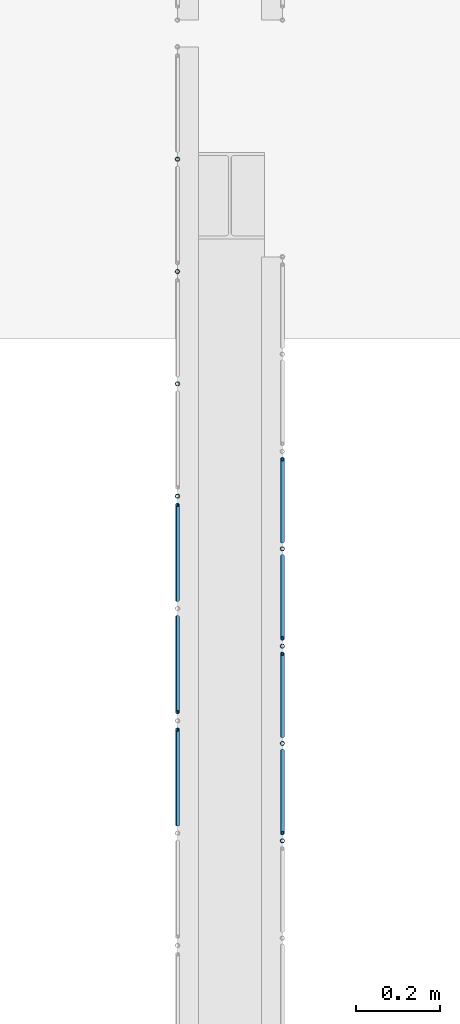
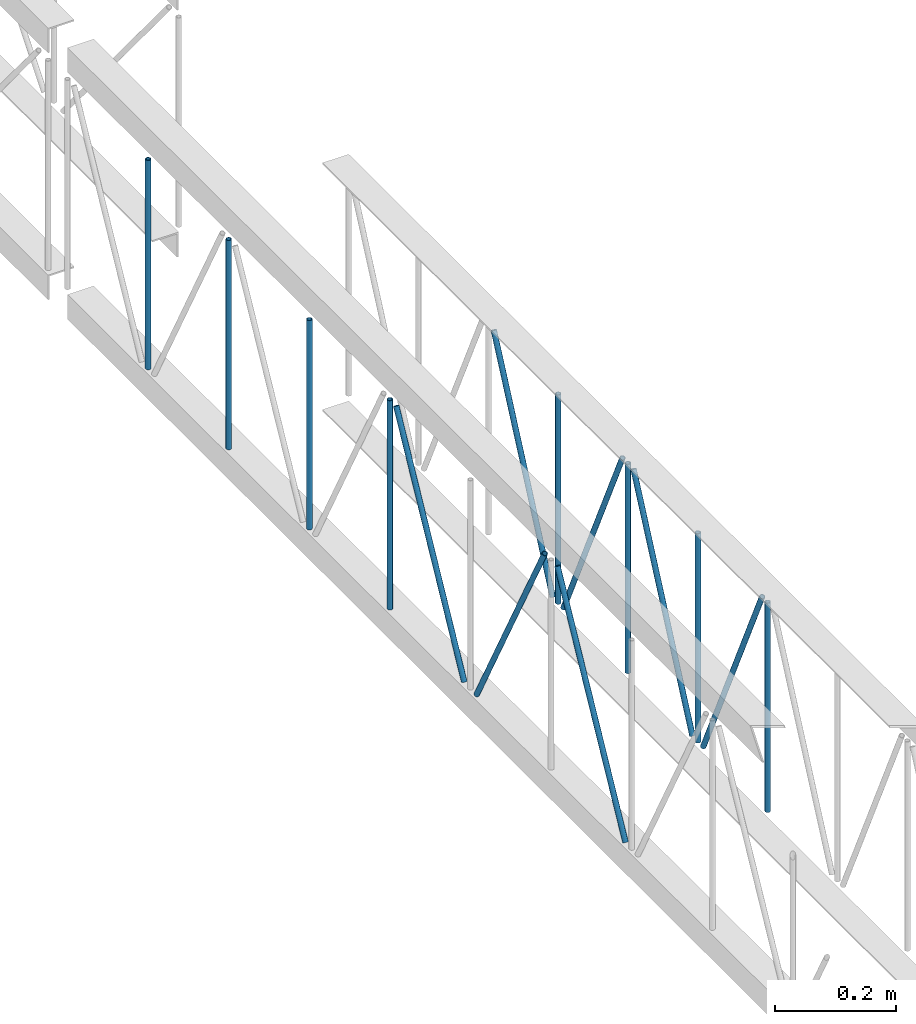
# One storey, part 86 of 153: 15 members, 2 elements without a shape of their own.
"""IFC4 building model written with IfcOpenShell, lengths in metres."""

from ifc_helpers import new_model, entity, si_unit, converted_unit, derived_unit, direction, frame, origin, place, context, subcontext, project, spatial, arc, indexed_curve, outline, extrude, source, transform, mapped, material, type_object, type_shapes, element, aggregate, save


model = new_model("IFC4")

# Units and contexts
model_context = context("Model", 3, precision=1e-05, world=origin(), true_north=direction((6.123031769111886e-17, 1.0)))
body_context = subcontext(model_context, "Body", "Model", "MODEL_VIEW")
ifc_project = project(units=[si_unit("LENGTHUNIT", "METRE"), si_unit("AREAUNIT", "SQUARE_METRE"), si_unit("VOLUMEUNIT", "CUBIC_METRE"), converted_unit("PLANEANGLEUNIT", "DEGREE", entity("IfcRatioMeasure", 0.017453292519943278), si_unit("PLANEANGLEUNIT", "RADIAN"), dimensions=[0, 0, 0, 0, 0, 0, 0]), si_unit("MASSUNIT", "GRAM", prefix="KILO"), derived_unit("MASSDENSITYUNIT", [(si_unit("MASSUNIT", "GRAM", prefix="KILO"), 1), (si_unit("LENGTHUNIT", "METRE"), -3)]), derived_unit("MOMENTOFINERTIAUNIT", [(si_unit("LENGTHUNIT", "METRE"), 4)]), si_unit("TIMEUNIT", "SECOND"), si_unit("FREQUENCYUNIT", "HERTZ"), si_unit("THERMODYNAMICTEMPERATUREUNIT", "DEGREE_CELSIUS"), derived_unit("THERMALTRANSMITTANCEUNIT", [(si_unit("MASSUNIT", "GRAM", prefix="KILO"), 1), (si_unit("THERMODYNAMICTEMPERATUREUNIT", "KELVIN"), -1), (si_unit("TIMEUNIT", "SECOND"), -3)]), derived_unit("VOLUMETRICFLOWRATEUNIT", [(si_unit("LENGTHUNIT", "METRE"), 3), (si_unit("TIMEUNIT", "SECOND"), -1)]), derived_unit("MASSFLOWRATEUNIT", [(si_unit("MASSUNIT", "GRAM", prefix="KILO"), 1), (si_unit("TIMEUNIT", "SECOND"), -1)]), derived_unit("ROTATIONALFREQUENCYUNIT", [(si_unit("TIMEUNIT", "SECOND"), -1)]), si_unit("ELECTRICCURRENTUNIT", "AMPERE"), si_unit("ELECTRICVOLTAGEUNIT", "VOLT"), si_unit("POWERUNIT", "WATT"), si_unit("FORCEUNIT", "NEWTON", prefix="KILO"), si_unit("ILLUMINANCEUNIT", "LUX"), si_unit("LUMINOUSFLUXUNIT", "LUMEN"), si_unit("LUMINOUSINTENSITYUNIT", "CANDELA"), derived_unit("USERDEFINED", [(si_unit("MASSUNIT", "GRAM", prefix="KILO"), -1), (si_unit("LENGTHUNIT", "METRE"), -2), (si_unit("TIMEUNIT", "SECOND"), 3), (si_unit("LUMINOUSFLUXUNIT", "LUMEN"), 1)]), derived_unit("SOUNDPOWERUNIT", [(si_unit("MASSUNIT", "GRAM", prefix="KILO"), 1), (si_unit("LENGTHUNIT", "METRE"), 2), (si_unit("TIMEUNIT", "SECOND"), -3)]), derived_unit("SOUNDPRESSUREUNIT", [(si_unit("MASSUNIT", "GRAM", prefix="KILO"), 1), (si_unit("LENGTHUNIT", "METRE"), -1), (si_unit("TIMEUNIT", "SECOND"), -2)]), derived_unit("LINEARVELOCITYUNIT", [(si_unit("LENGTHUNIT", "METRE"), 1), (si_unit("TIMEUNIT", "SECOND"), -1)]), si_unit("PRESSUREUNIT", "PASCAL"), derived_unit("USERDEFINED", [(si_unit("LENGTHUNIT", "METRE"), -2), (si_unit("MASSUNIT", "GRAM", prefix="KILO"), 1), (si_unit("TIMEUNIT", "SECOND"), -2)]), derived_unit("LINEARFORCEUNIT", [(si_unit("MASSUNIT", "GRAM", prefix="KILO"), 1), (si_unit("LENGTHUNIT", "METRE"), 1), (si_unit("TIMEUNIT", "SECOND"), -2), (si_unit("LENGTHUNIT", "METRE"), -1)]), derived_unit("PLANARFORCEUNIT", [(si_unit("MASSUNIT", "GRAM", prefix="KILO"), 1), (si_unit("LENGTHUNIT", "METRE"), 1), (si_unit("TIMEUNIT", "SECOND"), -2), (si_unit("LENGTHUNIT", "METRE"), -2)])], contexts=[model_context])

# Site, building, storey
site_placement = place(None, origin())
site = spatial("IfcSite", under=ifc_project, at=site_placement, Name="Superficie", CompositionType="ELEMENT")
building_placement = place(site_placement, origin())
building = spatial("IfcBuilding", under=site, at=building_placement, CompositionType="ELEMENT")
storey_placement = place(building_placement, frame((0.0, 0.0, 3.5999999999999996)))
storey = spatial("IfcBuildingStorey", under=building, at=storey_placement, Name="Nivel 1", CompositionType="ELEMENT", Elevation=3.5999999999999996)

# Assembly, members
assembly_1_placement = place(storey_placement, origin())
assembly_1 = element("IfcElementAssembly", 1, at=assembly_1_placement, inside=storey, Name="Viga de celosia 13:Viga de celosia 13", ObjectType="Viga de celosia 13:Viga de celosia 13", AssemblyPlace="NOTDEFINED", PredefinedType="TRUSS")
ifc_material = material(Name="Metal - Calibre delgado", Category="Metal")
member_type_1 = type_object("IfcMemberType", Name="HSS-Tubo estructural redondo:HSS 0.01", PredefinedType="BRACE", material=ifc_material)
shared_shape_1 = source(origin(), body_context, "Body", "SweptSolid", [
    extrude(outline(indexed_curve([(-0.005000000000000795, 7.502054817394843e-18), (-9.800269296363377e-18, -0.005000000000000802), (0.005000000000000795, -7.502054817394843e-18), (8.07772287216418e-18, 0.005000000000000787)], segments=[arc(1, 2, 3), arc(3, 4, 1)], self_intersect=False), holes=[indexed_curve([(0.003999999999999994, 7.222511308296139e-17), (6.910645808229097e-17, -0.004000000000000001), (-0.003999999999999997, -1.8650054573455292e-17), (-2.9156497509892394e-17, 0.003999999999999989)], segments=[arc(1, 2, 3), arc(3, 4, 1)], self_intersect=False)]), frame((-0.21200000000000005, 0.0, 0.0), z_axis=(1.0, 0.0, 0.0), x_axis=(0.0, 1.0, 0.0)), (0.0, 0.0, 1.0), 0.4240000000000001),
])
type_shapes(member_type_1, [shared_shape_1])
member_1_placement = place(assembly_1_placement, frame((15.836799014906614, -10.268502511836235, 0.25), z_axis=(0.0, 1.0, 0.0), x_axis=(0.0, 0.0, 1.0)))
member_1 = element("IfcMember", 2, at=member_1_placement, type_object=member_type_1, material=ifc_material, Name="HSS-Tubo estructural redondo:HSS 0.01", ObjectType="HSS-Tubo estructural redondo:HSS 0.01", PredefinedType="BRACE", context=body_context, shape_type="MappedRepresentation", body=[
    mapped(shared_shape_1, transform((0.0, 0.0, 0.0), scale=1.0)),
])
member_2_placement = place(assembly_1_placement, frame((15.836799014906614, -10.001002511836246, 0.25), z_axis=(0.0, 1.0, 0.0), x_axis=(0.0, 0.0, 1.0)))
member_2 = element("IfcMember", 3, at=member_2_placement, type_object=member_type_1, material=ifc_material, Name="HSS-Tubo estructural redondo:HSS 0.01", ObjectType="HSS-Tubo estructural redondo:HSS 0.01", PredefinedType="BRACE", context=body_context, shape_type="MappedRepresentation", body=[
    mapped(shared_shape_1, transform((0.0, 0.0, 0.0), scale=1.0)),
])
member_3_placement = place(assembly_1_placement, frame((15.836799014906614, -9.733502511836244, 0.25), z_axis=(0.0, 1.0, 0.0), x_axis=(0.0, 0.0, 1.0)))
member_3 = element("IfcMember", 4, at=member_3_placement, type_object=member_type_1, material=ifc_material, Name="HSS-Tubo estructural redondo:HSS 0.01", ObjectType="HSS-Tubo estructural redondo:HSS 0.01", PredefinedType="BRACE", context=body_context, shape_type="MappedRepresentation", body=[
    mapped(shared_shape_1, transform((0.0, 0.0, 0.0), scale=1.0)),
])
member_4_placement = place(assembly_1_placement, frame((15.836799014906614, -9.466002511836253, 0.25), z_axis=(0.0, 1.0, 0.0), x_axis=(0.0, 0.0, 1.0)))
member_4 = element("IfcMember", 5, at=member_4_placement, type_object=member_type_1, material=ifc_material, Name="HSS-Tubo estructural redondo:HSS 0.01", ObjectType="HSS-Tubo estructural redondo:HSS 0.01", PredefinedType="BRACE", context=body_context, shape_type="MappedRepresentation", body=[
    mapped(shared_shape_1, transform((0.0, 0.0, 0.0), scale=1.0)),
])

assembly_2_placement = place(storey_placement, origin())
assembly_2 = element("IfcElementAssembly", 6, at=assembly_2_placement, inside=storey, Name="Viga de celosia 13:Viga de celosia 13", ObjectType="Viga de celosia 13:Viga de celosia 13", AssemblyPlace="NOTDEFINED", PredefinedType="TRUSS")
member_type_2 = type_object("IfcMemberType", Name="HSS-Tubo estructural redondo:HSS 0.01", PredefinedType="BRACE", material=ifc_material)
shared_shape_2 = source(origin(), body_context, "Body", "SweptSolid", [
    extrude(outline(indexed_curve([(-0.005000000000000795, 2.0824731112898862e-17), (-2.3122945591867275e-17, -0.005000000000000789), (0.005000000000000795, -2.08247311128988e-17), (2.14003991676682e-17, 0.005000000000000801)], segments=[arc(1, 2, 3), arc(3, 4, 1)], self_intersect=False), holes=[indexed_curve([(0.003999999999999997, -1.3094283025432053e-17), (-1.531427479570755e-18, -0.003999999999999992), (-0.004, 4.0098531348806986e-17), (4.1481388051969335e-17, 0.0039999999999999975)], segments=[arc(1, 2, 3), arc(3, 4, 1)], self_intersect=False)]), frame((-0.21200000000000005, 0.0, 0.0), z_axis=(1.0, 0.0, 0.0), x_axis=(0.0, -1.0, 0.0)), (0.0, 0.0, 1.0), 0.4240000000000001),
])
type_shapes(member_type_2, [shared_shape_2])
member_5_placement = place(assembly_2_placement, frame((16.086799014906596, -11.089216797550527, 0.25), z_axis=(0.0, 1.0, 0.0), x_axis=(0.0, 0.0, 1.0)))
member_5 = element("IfcMember", 7, at=member_5_placement, type_object=member_type_2, material=ifc_material, Name="HSS-Tubo estructural redondo:HSS 0.01", ObjectType="HSS-Tubo estructural redondo:HSS 0.01", PredefinedType="BRACE", context=body_context, shape_type="MappedRepresentation", body=[
    mapped(shared_shape_2, transform((0.0, 0.0, 0.0), scale=1.0)),
])
member_6_placement = place(assembly_2_placement, frame((16.086799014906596, -10.857431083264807, 0.25), z_axis=(0.0, 1.0, 0.0), x_axis=(0.0, 0.0, 1.0)))
member_6 = element("IfcMember", 8, at=member_6_placement, type_object=member_type_2, material=ifc_material, Name="HSS-Tubo estructural redondo:HSS 0.01", ObjectType="HSS-Tubo estructural redondo:HSS 0.01", PredefinedType="BRACE", context=body_context, shape_type="MappedRepresentation", body=[
    mapped(shared_shape_2, transform((0.0, 0.0, 0.0), scale=1.0)),
])
member_7_placement = place(assembly_2_placement, frame((16.086799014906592, -10.625645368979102, 0.25), z_axis=(0.0, 1.0, 0.0), x_axis=(0.0, 0.0, 1.0)))
member_7 = element("IfcMember", 9, at=member_7_placement, type_object=member_type_2, material=ifc_material, Name="HSS-Tubo estructural redondo:HSS 0.01", ObjectType="HSS-Tubo estructural redondo:HSS 0.01", PredefinedType="BRACE", context=body_context, shape_type="MappedRepresentation", body=[
    mapped(shared_shape_2, transform((0.0, 0.0, 0.0), scale=1.0)),
])
member_8_placement = place(assembly_2_placement, frame((16.086799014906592, -10.393859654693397, 0.25), z_axis=(0.0, 1.0, 0.0), x_axis=(0.0, 0.0, 1.0)))
member_8 = element("IfcMember", 10, at=member_8_placement, type_object=member_type_2, material=ifc_material, Name="HSS-Tubo estructural redondo:HSS 0.01", ObjectType="HSS-Tubo estructural redondo:HSS 0.01", PredefinedType="BRACE", context=body_context, shape_type="MappedRepresentation", body=[
    mapped(shared_shape_2, transform((0.0, 0.0, 0.0), scale=1.0)),
])

# Member
member_type_3 = type_object("IfcMemberType", Name="HSS-Tubo estructural redondo:HSS 0.01", PredefinedType="BRACE", material=ifc_material)
shared_shape_3 = source(origin(), body_context, "Body", "SweptSolid", [
    extrude(outline(indexed_curve([(-0.005000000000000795, 7.502054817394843e-18), (-9.800269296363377e-18, -0.005000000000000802), (0.005000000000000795, -7.502054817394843e-18), (8.07772287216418e-18, 0.005000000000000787)], segments=[arc(1, 2, 3), arc(3, 4, 1)], self_intersect=False), holes=[indexed_curve([(0.003999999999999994, 7.222511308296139e-17), (6.910645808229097e-17, -0.004000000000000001), (-0.003999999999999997, -1.8650054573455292e-17), (-2.9156497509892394e-17, 0.003999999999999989)], segments=[arc(1, 2, 3), arc(3, 4, 1)], self_intersect=False)]), frame((-0.23950000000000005, 0.0, 0.0), z_axis=(1.0, 0.0, 0.0), x_axis=(0.0, 1.0, 0.0)), (0.0, 0.0, 1.0), 0.4790000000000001),
])
type_shapes(member_type_3, [shared_shape_3])
member_9_placement = place(assembly_1_placement, frame((15.83679901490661, -10.937252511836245, 0.25), z_axis=(0.0, 0.8817419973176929, -0.4717319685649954), x_axis=(0.0, 0.4717319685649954, 0.8817419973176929)))
member_9 = element("IfcMember", 11, at=member_9_placement, type_object=member_type_3, material=ifc_material, Name="HSS-Tubo estructural redondo:HSS 0.01", ObjectType="HSS-Tubo estructural redondo:HSS 0.01", PredefinedType="BRACE", context=body_context, shape_type="MappedRepresentation", body=[
    mapped(shared_shape_3, transform((0.0, 0.0, 0.0), scale=1.0)),
])

member_10_placement = place(assembly_1_placement, frame((15.83679901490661, -10.66975251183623, 0.2500000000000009), z_axis=(0.0, -0.8817419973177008, -0.4717319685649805), x_axis=(0.0, 0.4717319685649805, -0.8817419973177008)))
member_10 = element("IfcMember", 12, at=member_10_placement, type_object=member_type_3, material=ifc_material, Name="HSS-Tubo estructural redondo:HSS 0.01", ObjectType="HSS-Tubo estructural redondo:HSS 0.01", PredefinedType="BRACE", context=body_context, shape_type="MappedRepresentation", body=[
    mapped(shared_shape_3, transform((0.0, 0.0, 0.0), scale=1.0)),
])

member_11_placement = place(assembly_1_placement, frame((15.83679901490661, -10.402252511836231, 0.2499999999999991), z_axis=(0.0, 0.8817419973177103, -0.47173196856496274), x_axis=(0.0, 0.47173196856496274, 0.8817419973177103)))
member_11 = element("IfcMember", 13, at=member_11_placement, type_object=member_type_3, material=ifc_material, Name="HSS-Tubo estructural redondo:HSS 0.01", ObjectType="HSS-Tubo estructural redondo:HSS 0.01", PredefinedType="BRACE", context=body_context, shape_type="MappedRepresentation", body=[
    mapped(shared_shape_3, transform((0.0, 0.0, 0.0), scale=1.0)),
])

aggregate(assembly_1, [member_1, member_2, member_3, member_4, member_9, member_10, member_11])

member_type_4 = type_object("IfcMemberType", Name="HSS-Tubo estructural redondo:HSS 0.01", PredefinedType="BRACE", material=ifc_material)
shared_shape_4 = source(origin(), body_context, "Body", "SweptSolid", [
    extrude(outline(indexed_curve([(-0.005000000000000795, 2.0824731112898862e-17), (-2.3122945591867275e-17, -0.005000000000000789), (0.005000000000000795, -2.08247311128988e-17), (2.14003991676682e-17, 0.005000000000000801)], segments=[arc(1, 2, 3), arc(3, 4, 1)], self_intersect=False), holes=[indexed_curve([(0.003999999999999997, -1.3094283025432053e-17), (-1.531427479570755e-18, -0.003999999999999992), (-0.004, 4.0098531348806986e-17), (4.1481388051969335e-17, 0.0039999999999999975)], segments=[arc(1, 2, 3), arc(3, 4, 1)], self_intersect=False)]), frame((-0.2325, 0.0, 0.0), z_axis=(1.0, 0.0, 0.0), x_axis=(0.0, -1.0, 0.0)), (0.0, 0.0, 1.0), 0.465),
])
type_shapes(member_type_4, [shared_shape_4])
member_12_placement = place(assembly_2_placement, frame((16.086799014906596, -10.973323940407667, 0.25), z_axis=(0.0, -0.9072563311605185, -0.4205781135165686), x_axis=(0.0, 0.4205781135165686, -0.9072563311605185)))
member_12 = element("IfcMember", 14, at=member_12_placement, type_object=member_type_4, material=ifc_material, Name="HSS-Tubo estructural redondo:HSS 0.01", ObjectType="HSS-Tubo estructural redondo:HSS 0.01", PredefinedType="BRACE", context=body_context, shape_type="MappedRepresentation", body=[
    mapped(shared_shape_4, transform((0.0, 0.0, 0.0), scale=1.0)),
])

member_13_placement = place(assembly_2_placement, frame((16.086799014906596, -10.741538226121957, 0.25), z_axis=(0.0, 0.9072563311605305, -0.42057811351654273), x_axis=(0.0, 0.42057811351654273, 0.9072563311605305)))
member_13 = element("IfcMember", 15, at=member_13_placement, type_object=member_type_4, material=ifc_material, Name="HSS-Tubo estructural redondo:HSS 0.01", ObjectType="HSS-Tubo estructural redondo:HSS 0.01", PredefinedType="BRACE", context=body_context, shape_type="MappedRepresentation", body=[
    mapped(shared_shape_4, transform((0.0, 0.0, 0.0), scale=1.0)),
])

member_14_placement = place(assembly_2_placement, frame((16.086799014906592, -10.509752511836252, 0.25), z_axis=(0.0, -0.9072563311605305, -0.42057811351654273), x_axis=(0.0, 0.42057811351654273, -0.9072563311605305)))
member_14 = element("IfcMember", 16, at=member_14_placement, type_object=member_type_4, material=ifc_material, Name="HSS-Tubo estructural redondo:HSS 0.01", ObjectType="HSS-Tubo estructural redondo:HSS 0.01", PredefinedType="BRACE", context=body_context, shape_type="MappedRepresentation", body=[
    mapped(shared_shape_4, transform((0.0, 0.0, 0.0), scale=1.0)),
])

member_15_placement = place(assembly_2_placement, frame((16.086799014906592, -10.27796679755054, 0.24999999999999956), z_axis=(0.0, 0.907256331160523, -0.4205781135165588), x_axis=(0.0, 0.4205781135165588, 0.907256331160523)))
member_15 = element("IfcMember", 17, at=member_15_placement, type_object=member_type_4, material=ifc_material, Name="HSS-Tubo estructural redondo:HSS 0.01", ObjectType="HSS-Tubo estructural redondo:HSS 0.01", PredefinedType="BRACE", context=body_context, shape_type="MappedRepresentation", body=[
    mapped(shared_shape_4, transform((0.0, 0.0, 0.0), scale=1.0)),
])

aggregate(assembly_2, [member_5, member_6, member_7, member_8, member_12, member_13, member_14, member_15])

save(model, "model.ifc")
